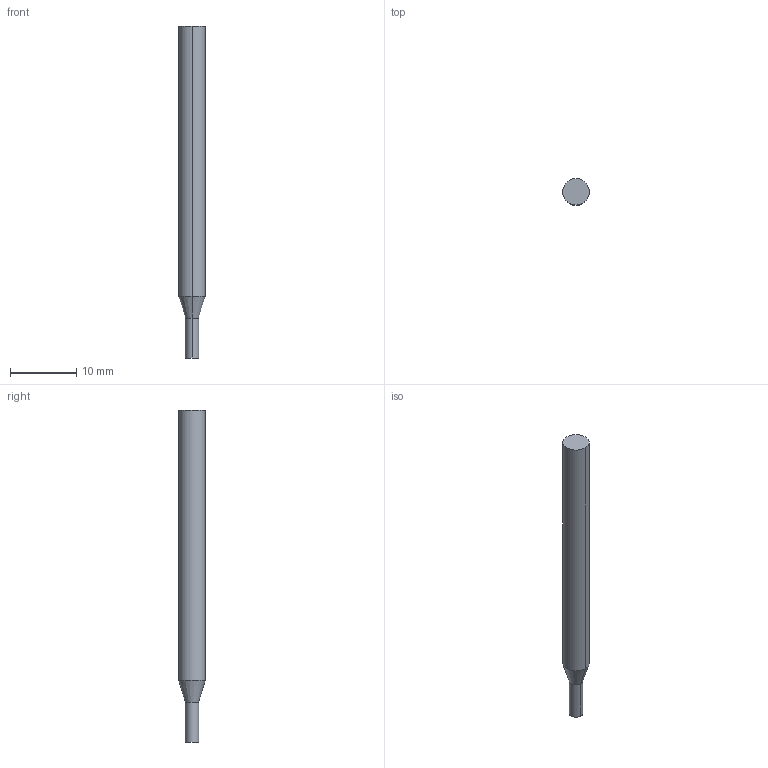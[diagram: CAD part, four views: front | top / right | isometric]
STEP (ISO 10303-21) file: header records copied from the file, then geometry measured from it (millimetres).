
FILE_DESCRIPTION((' '),'2;1');
FILE_NAME( '3MVRM0200AH.stp', '2026-01-21T19:06:07', (' '), ('--- Datakit www.datakit.com---'), ' Datakit CrossCadWare V2025.4 Sep 19 2025', 'Mastercam 2027', ' ');
FILE_SCHEMA(('AUTOMOTIVE_DESIGN { 1 0 10303 214 1 1 1 1 }'));
Length unit declared in the file: inch
Products named in the file (1): 3MVRM0200AH
Bounding box: 4 x 4 x 50 mm (x, y, z)
Volume: 554.7 mm3; surface area: 597.5 mm2
Topology: 1 solids, 1 shells, 8 faces, 14 edges, 8 vertices
Faces by surface type: cylinder 4, plane 2, cone 2
Entity records: 264 total; most frequent: DIRECTION 48, CARTESIAN_POINT 35, ORIENTED_EDGE 28, AXIS2_PLACEMENT_3D 21, EDGE_CURVE 14, VERTEX_POINT 8, CIRCLE 8, EDGE_LOOP 8
